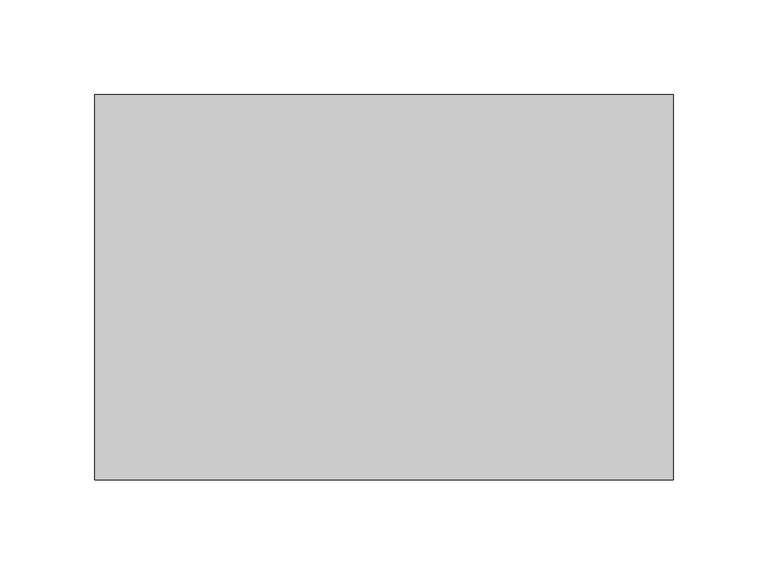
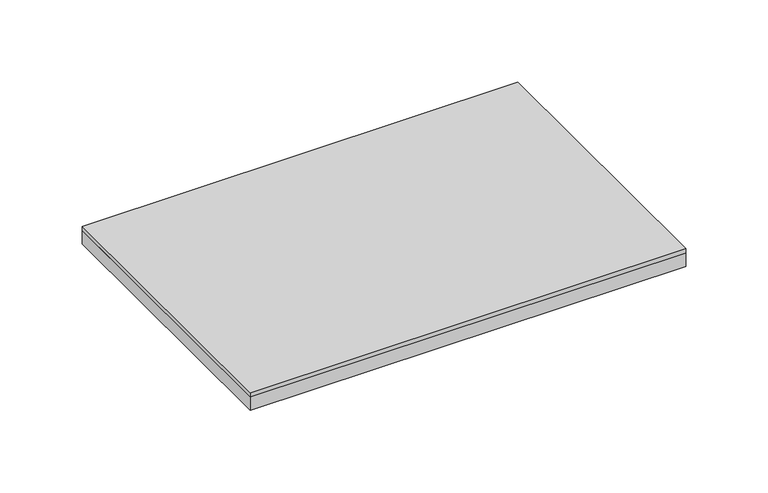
"""IFC4 building model written with IfcOpenShell, lengths in millimetres: proxy geometry, FilzFelt_Rectangle B_Block : Rectangle B = 1’-0” x 8” (30.5 x 20.3 cm)."""

from ifc_helpers import new_model, si_unit, frame, origin, origin_with_axes, place, context, project, spatial, polyline, outline, extrude, source, transform, mapped, element, save


def specialty_equipment_1684c698(model_context):
    return source(origin(), model_context, "Body", "SweptSolid", [
        extrude(outline(polyline([(-152.4, -101.6), (-152.4, 101.6), (152.4, 101.6), (152.4, -101.6), (-152.4, -101.6)])), frame((0.0, 0.0, 10.0210937), z_axis=(0.0, 0.0, 1.0), x_axis=(1.0, 0.0, 0.0)), (0.0, 0.0, 1.0), 2.9765625),
        extrude(outline(polyline([(-152.4, -101.6), (-152.4, 101.6), (152.4, 101.6), (152.4, -101.6), (-152.4, -101.6)])), origin_with_axes(), (0.0, 0.0, 1.0), 10.0210938),
    ])


if __name__ == "__main__":
    model = new_model("IFC4")
    model_context = context("Model", 3, world=origin())
    ifc_project = project(units=[si_unit("LENGTHUNIT", "METRE", prefix="MILLI")], contexts=[model_context])
    site = spatial("IfcSite", under=ifc_project)
    building = spatial("IfcBuilding", under=site)
    placement = place(None, origin())
    specialty_equipment_shape = specialty_equipment_1684c698(model_context)
    element("IfcBuildingElementProxy", 1, Name="FilzFelt_Rectangle B_Block : Rectangle B = 1’-0” x 8” (30.5 x 20.3 cm)", ObjectType="FilzFelt_Rectangle B_Block : Rectangle B = 1’-0” x 8” (30.5 x 20.3 cm)", at=placement, inside=building, context=model_context, shape_type="MappedRepresentation", body=[
        mapped(specialty_equipment_shape, transform((0.0, 0.0, 0.0), x_axis=(1.0, 0.0, 0.0), y_axis=(0.0, 1.0, 0.0), z_axis=(0.0, 0.0, 1.0))),
    ])
    save(model, "model.ifc")
